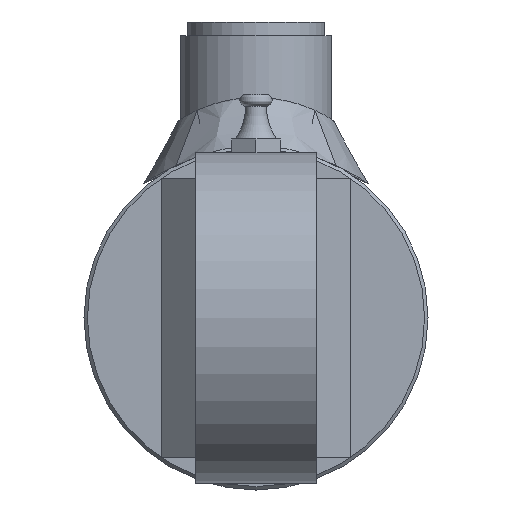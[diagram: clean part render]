
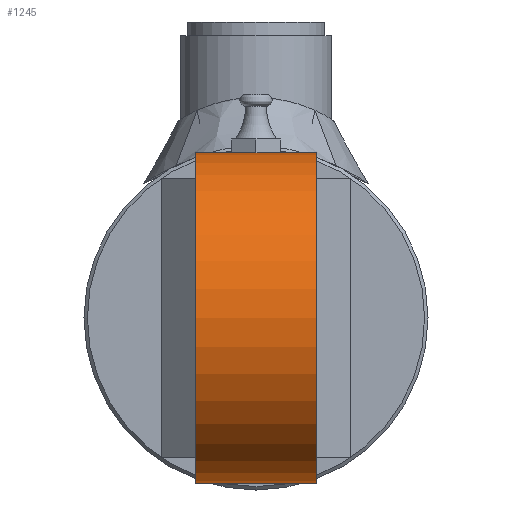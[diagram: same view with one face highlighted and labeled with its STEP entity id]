
A CAD part, left-side view. The second image highlights one B-rep face of the part: STEP entity #1245.
In plain terms, the highlighted cylindrical face has radius 24 mm (diameter 48 mm), a partial arc.
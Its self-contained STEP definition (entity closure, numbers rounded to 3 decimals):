
#1245 = ADVANCED_FACE( '', ( #2301 ), #2302, .T. );
#2301 = FACE_OUTER_BOUND( '', #4800, .T. );
#2302 = CYLINDRICAL_SURFACE( '', #4801, 24. );
#4800 = EDGE_LOOP( '', ( #7101, #7102, #7103, #7104 ) );
#4801 = AXIS2_PLACEMENT_3D( '', #7105, #7106, #7107 );
#7101 = ORIENTED_EDGE( '', *, *, #8403, .T. );
#7102 = ORIENTED_EDGE( '', *, *, #8312, .F. );
#7103 = ORIENTED_EDGE( '', *, *, #8106, .F. );
#7104 = ORIENTED_EDGE( '', *, *, #8273, .T. );
#7105 = CARTESIAN_POINT( '', ( 35., -8.75, 0. ) );
#7106 = DIRECTION( '', ( 0., -1., 0. ) );
#7107 = DIRECTION( '', ( 0., 0., 1. ) );
#8106 = EDGE_CURVE( '', #9032, #9028, #9034, .T. );
#8273 = EDGE_CURVE( '', #9032, #9301, #9303, .T. );
#8312 = EDGE_CURVE( '', #9028, #9358, #9360, .T. );
#8403 = EDGE_CURVE( '', #9301, #9358, #9491, .T. );
#9028 = VERTEX_POINT( '', #10055 );
#9032 = VERTEX_POINT( '', #10061 );
#9034 = CIRCLE( '', #10064, 24. );
#9301 = VERTEX_POINT( '', #10845 );
#9303 = LINE( '', #10848, #10849 );
#9358 = VERTEX_POINT( '', #10911 );
#9360 = LINE( '', #10914, #10915 );
#9491 = CIRCLE( '', #11288, 24. );
#10055 = CARTESIAN_POINT( '', ( 35., -8.75, 24. ) );
#10061 = CARTESIAN_POINT( '', ( 35., -8.75, -24. ) );
#10064 = AXIS2_PLACEMENT_3D( '', #12097, #12098, #12099 );
#10845 = CARTESIAN_POINT( '', ( 35., 8.75, -24. ) );
#10848 = CARTESIAN_POINT( '', ( 35., -8.75, -24. ) );
#10849 = VECTOR( '', #12313, 1000. );
#10911 = CARTESIAN_POINT( '', ( 35., 8.75, 24. ) );
#10914 = CARTESIAN_POINT( '', ( 35., -8.75, 24. ) );
#10915 = VECTOR( '', #12364, 1000. );
#11288 = AXIS2_PLACEMENT_3D( '', #12470, #12471, #12472 );
#12097 = CARTESIAN_POINT( '', ( 35., -8.75, 0. ) );
#12098 = DIRECTION( '', ( 0., -1., 0. ) );
#12099 = DIRECTION( '', ( -1., 0., 0. ) );
#12313 = DIRECTION( '', ( 0., 1., 0. ) );
#12364 = DIRECTION( '', ( 0., 1., 0. ) );
#12470 = CARTESIAN_POINT( '', ( 35., 8.75, 0. ) );
#12471 = DIRECTION( '', ( 0., -1., 0. ) );
#12472 = DIRECTION( '', ( -1., 0., 0. ) );
